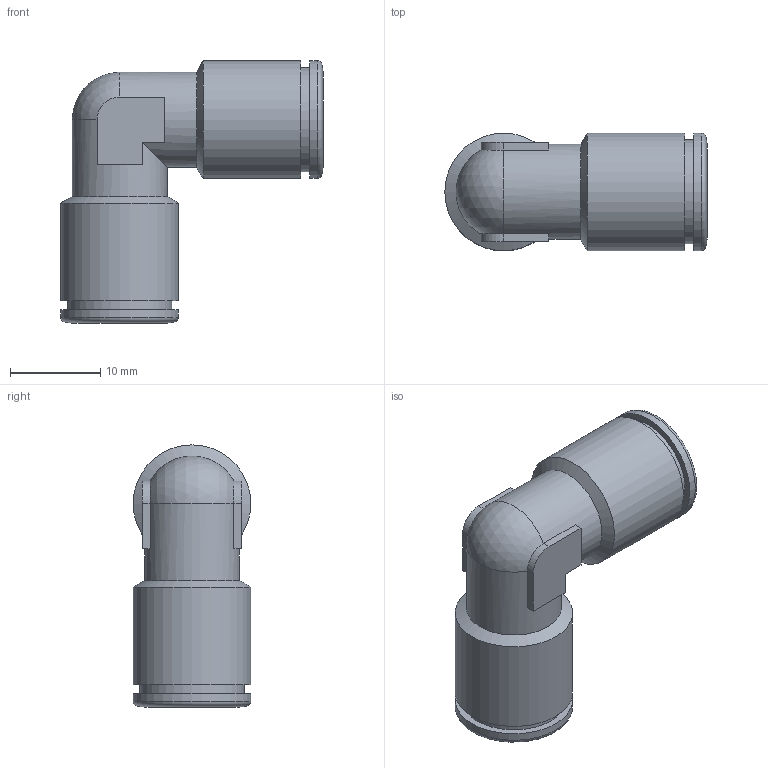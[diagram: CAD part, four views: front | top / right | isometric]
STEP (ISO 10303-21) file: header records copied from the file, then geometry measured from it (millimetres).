
FILE_DESCRIPTION(/* description */ (''),/* implementation_level */ '2;1');
FILE_NAME(/* name */ '200404-ES_STX04_6_6_07.06.16',/* time_stamp */ '2016-06-07T10:00:26+02:00',/* author */ (''),/* organization */ (''),/* preprocessor_version */ 'ST-DEVELOPER v14',/* originating_system */ 'HiCAD 2013 1802.4 Build 509',/* authorisation */ '');
FILE_SCHEMA (('AUTOMOTIVE_DESIGN { 1 0 10303 214 1 1 1 1 }'));
Length unit declared in the file: millimetre
Products named in the file (4): Root; R200404-ES-N1; DR8-1_NEU
Assembly tree (3 placements, depth 2):
  Root
    R200404-ES-N1
    DR8-1_NEU
    DR8-1_NEU
Bounding box: 29 x 13 x 29 mm (x, y, z)
Volume: 2662.3 mm3; surface area: 4180.9 mm2
Topology: 3 solids, 3 shells, 65 faces, 133 edges, 78 vertices
Faces by surface type: plane 24, cylinder 20, cone 18, torus 2, sphere 1
Full cylindrical faces by diameter (mm): 8.1 x2, 8.2 x2, 10.1 x2, 10.5 x2, 11 x2, 11.5 x2, 11.6 x2, 13 x4
Entity records: 2583 total; most frequent: DIRECTION 290, CARTESIAN_POINT 238, PRESENTATION_STYLE_ASSIGNMENT 201, OVER_RIDING_STYLED_ITEM 198, COLOUR_RGB 184, DRAUGHTING_PRE_DEFINED_CURVE_FONT 182, CURVE_STYLE 182, ORIENTED_EDGE 182
